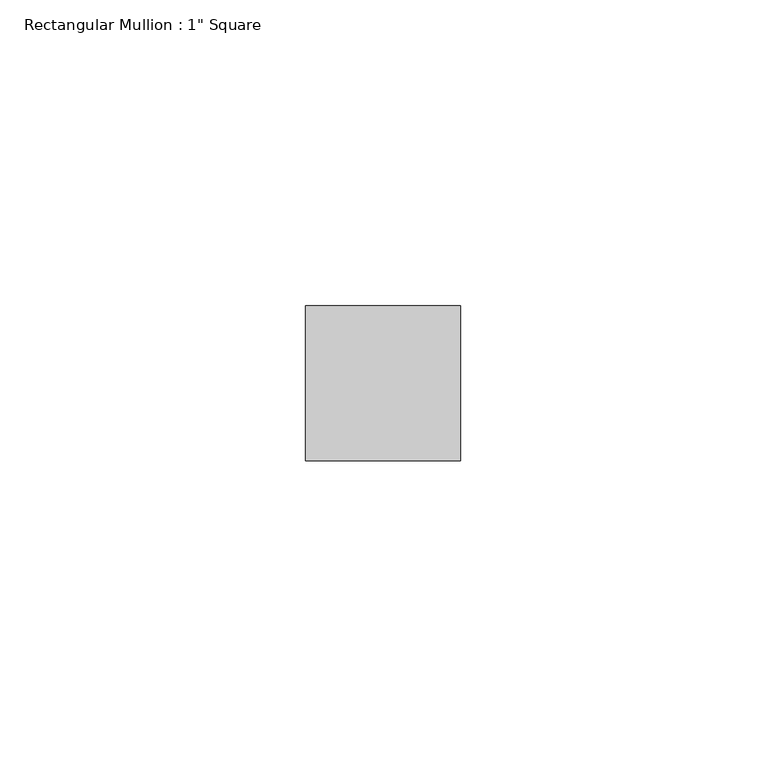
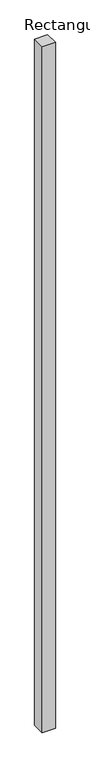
"""IFC4 building model written with IfcOpenShell, lengths in millimetres: member geometry."""

from ifc_helpers import new_model, si_unit, frame, origin, place, context, project, spatial, polyline, outline, extrude, source, transform, mapped, element, save


def member_a4b9d852(model_context):
    return source(origin(), model_context, "Body", "SweptSolid", [
        extrude(outline(polyline([(12.7, 12.7), (12.7, -12.7), (-12.7, -12.7), (-12.7, 12.7), (12.7, 12.7)])), frame((0.0, 0.0, -1409.5800424), z_axis=(0.0, 0.0, 1.0), x_axis=(1.0, 0.0, 0.0)), (0.0, 0.0, 1.0), 1409.5800424),
    ])


if __name__ == "__main__":
    model = new_model("IFC4")
    model_context = context("Model", 3, world=origin())
    ifc_project = project(units=[si_unit("LENGTHUNIT", "METRE", prefix="MILLI")], contexts=[model_context])
    site = spatial("IfcSite", under=ifc_project)
    building = spatial("IfcBuilding", under=site)
    placement = place(None, origin())
    member_shape = member_a4b9d852(model_context)
    element("IfcMember", 1, ObjectType="Rectangular Mullion : 1\" Square", at=placement, inside=building, context=model_context, shape_type="MappedRepresentation", body=[
        mapped(member_shape, transform((0.0, 0.0, 0.0), x_axis=(1.0, 0.0, 0.0), y_axis=(0.0, 1.0, 0.0), z_axis=(0.0, 0.0, 1.0))),
    ])
    save(model, "model.ifc")
